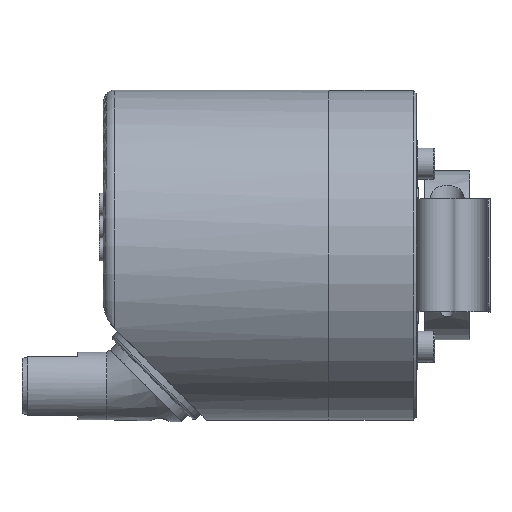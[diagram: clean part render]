
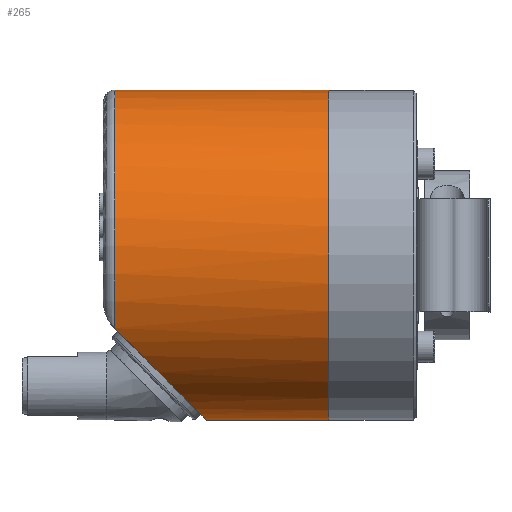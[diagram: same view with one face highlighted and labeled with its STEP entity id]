
A CAD part, top view. The second image highlights one B-rep face of the part: STEP entity #265.
In plain terms, the highlighted cylindrical face has radius 29.3 mm (diameter 58.6 mm), a full revolution.
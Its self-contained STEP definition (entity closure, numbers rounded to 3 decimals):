
#265 = ADVANCED_FACE( '', ( #668, #669 ), #670, .T. );
#668 = FACE_OUTER_BOUND( '', #1303, .T. );
#669 = FACE_OUTER_BOUND( '', #1304, .T. );
#670 = CYLINDRICAL_SURFACE( '', #1305, 29.3 );
#1303 = EDGE_LOOP( '', ( #2726 ) );
#1304 = EDGE_LOOP( '', ( #2727, #2728, #2729, #2730 ) );
#1305 = AXIS2_PLACEMENT_3D( '', #2731, #2732, #2733 );
#2726 = ORIENTED_EDGE( '', *, *, #4332, .F. );
#2727 = ORIENTED_EDGE( '', *, *, #4333, .T. );
#2728 = ORIENTED_EDGE( '', *, *, #4334, .T. );
#2729 = ORIENTED_EDGE( '', *, *, #4335, .F. );
#2730 = ORIENTED_EDGE( '', *, *, #4336, .T. );
#2731 = CARTESIAN_POINT( '', ( 55.5, 0., 0. ) );
#2732 = DIRECTION( '', ( -1., 0., 0. ) );
#2733 = DIRECTION( '', ( 0., 0., -1. ) );
#4332 = EDGE_CURVE( '', #5141, #5141, #5142, .T. );
#4333 = EDGE_CURVE( '', #5143, #5144, #5145, .T. );
#4334 = EDGE_CURVE( '', #5144, #5146, #5147, .T. );
#4335 = EDGE_CURVE( '', #5148, #5146, #5149, .T. );
#4336 = EDGE_CURVE( '', #5148, #5143, #5150, .T. );
#5141 = VERTEX_POINT( '', #6492 );
#5142 = CIRCLE( '', #6493, 29.3 );
#5143 = VERTEX_POINT( '', #6494 );
#5144 = VERTEX_POINT( '', #6495 );
#5145 = CIRCLE( '', #6496, 29.3 );
#5146 = VERTEX_POINT( '', #6497 );
#5147 = B_SPLINE_CURVE_WITH_KNOTS( '', 3, ( #6498, #6499, #6500, #6501 ), .UNSPECIFIED., .F., .F., ( 4, 4 ), ( 0., 0. ), .UNSPECIFIED. );
#5148 = VERTEX_POINT( '', #6502 );
#5149 = ELLIPSE( '', #6503, 41.436, 29.3 );
#5150 = B_SPLINE_CURVE_WITH_KNOTS( '', 3, ( #6504, #6505, #6506, #6507 ), .UNSPECIFIED., .F., .F., ( 4, 4 ), ( 0., 0. ), .UNSPECIFIED. );
#6492 = CARTESIAN_POINT( '', ( 40., 0., -29.3 ) );
#6493 = AXIS2_PLACEMENT_3D( '', #8075, #8076, #8077 );
#6494 = CARTESIAN_POINT( '', ( 2., -12.919, -26.298 ) );
#6495 = CARTESIAN_POINT( '', ( 2., -12.919, 26.298 ) );
#6496 = AXIS2_PLACEMENT_3D( '', #8078, #8079, #8080 );
#6497 = CARTESIAN_POINT( '', ( 2.05, -12.97, 26.273 ) );
#6498 = CARTESIAN_POINT( '', ( 2., -12.919, 26.298 ) );
#6499 = CARTESIAN_POINT( '', ( 2.017, -12.936, 26.289 ) );
#6500 = CARTESIAN_POINT( '', ( 2.033, -12.953, 26.281 ) );
#6501 = CARTESIAN_POINT( '', ( 2.05, -12.97, 26.273 ) );
#6502 = CARTESIAN_POINT( '', ( 2.05, -12.97, -26.273 ) );
#6503 = AXIS2_PLACEMENT_3D( '', #8081, #8082, #8083 );
#6504 = CARTESIAN_POINT( '', ( 2.05, -12.97, -26.273 ) );
#6505 = CARTESIAN_POINT( '', ( 2.033, -12.953, -26.281 ) );
#6506 = CARTESIAN_POINT( '', ( 2.017, -12.936, -26.289 ) );
#6507 = CARTESIAN_POINT( '', ( 2., -12.919, -26.298 ) );
#8075 = CARTESIAN_POINT( '', ( 40., 0., 0. ) );
#8076 = DIRECTION( '', ( 1., 0., 0. ) );
#8077 = DIRECTION( '', ( 0., 0., -1. ) );
#8078 = CARTESIAN_POINT( '', ( 2., 0., 0. ) );
#8079 = DIRECTION( '', ( 1., 0., 0. ) );
#8080 = DIRECTION( '', ( 0., 0., -1. ) );
#8081 = CARTESIAN_POINT( '', ( -10.92, 0., 0. ) );
#8082 = DIRECTION( '', ( -0.707, -0.707, 0. ) );
#8083 = DIRECTION( '', ( 0.707, -0.707, 0. ) );
